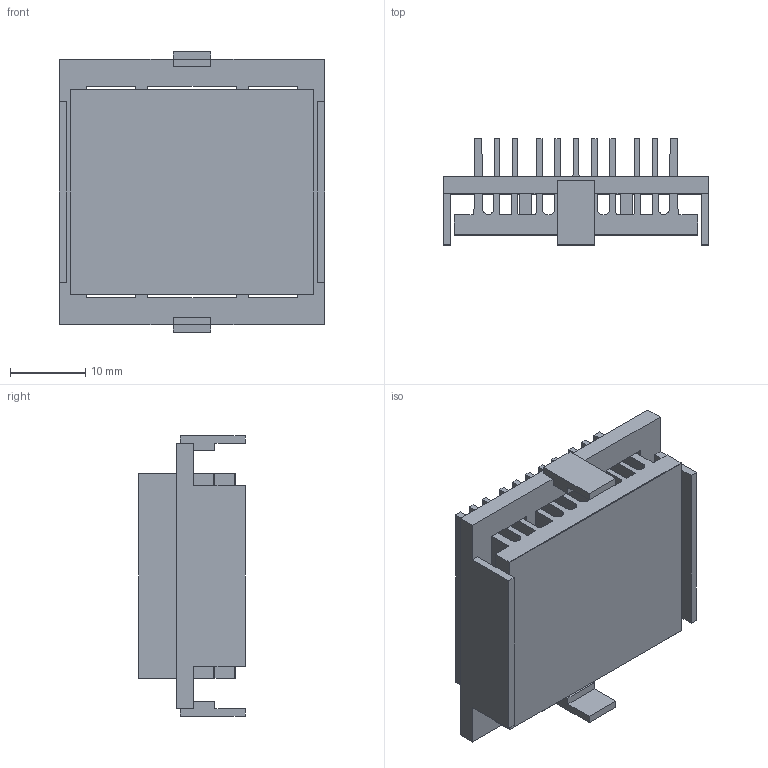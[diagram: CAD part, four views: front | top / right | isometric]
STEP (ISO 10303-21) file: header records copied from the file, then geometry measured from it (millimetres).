
FILE_DESCRIPTION (( 'STEP AP214' ), '1' );
FILE_NAME ('INH33001-12.7-2.6O.STEP', '2023-02-17T18:07:45', ( '' ), ( '' ), 'SwSTEP 2.0', 'SolidWorks 2020', '' );
FILE_SCHEMA (( 'AUTOMOTIVE_DESIGN' ));
Length unit declared in the file: millimetre
Products named in the file (1): INH33001-12.7-2.6O
Bounding box: 35.2 x 14.1 x 37.2 mm (x, y, z)
Volume: 6504.4 mm3; surface area: 12534.6 mm2
Topology: 3 solids, 3 shells, 130 faces, 372 edges, 248 vertices
Faces by surface type: plane 112, cylinder 18
Entity records: 5678 total; most frequent: CARTESIAN_POINT 751, ORIENTED_EDGE 744, DIRECTION 670, EDGE_CURVE 372, LINE 336, VECTOR 336, VERTEX_POINT 248, AXIS2_PLACEMENT_3D 167
